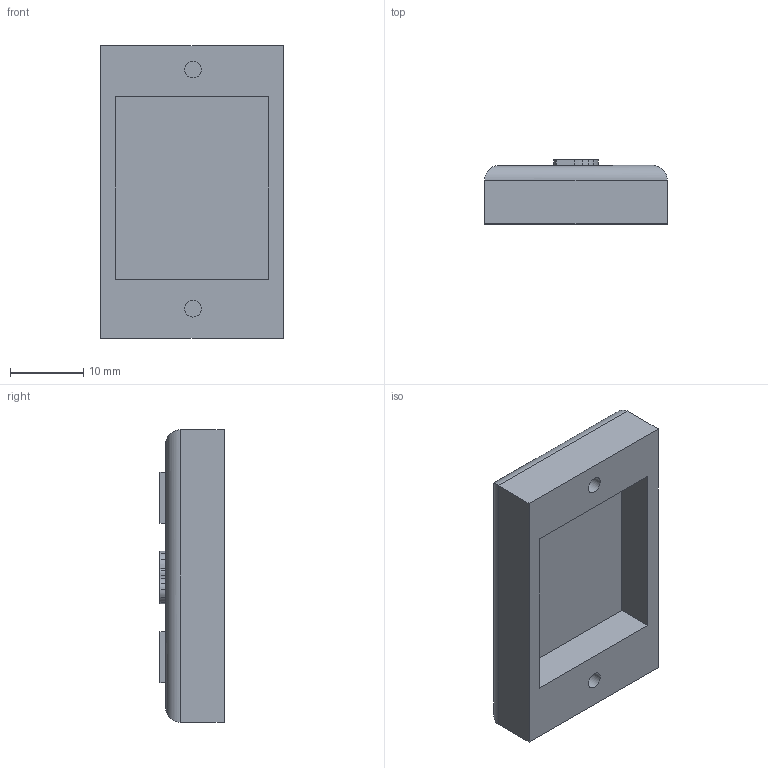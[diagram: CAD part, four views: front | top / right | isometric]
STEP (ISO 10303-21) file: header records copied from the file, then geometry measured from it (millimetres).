
FILE_DESCRIPTION(/* description */ (''),/* implementation_level */ '2;1');
FILE_NAME(/* name */ 'D:/Customers/2022/ESD Bluetooth/Fusion 360/ESD_Badge_v1 v1.step',/* time_stamp */ '2022-07-06T19:57:04-04:00',/* author */ (''),/* organization */ (''),/* preprocessor_version */ 'ST-DEVELOPER v18.1',/* originating_system */ 'Autodesk Translation Framework v10.13.0.1454',/* authorisation */ '');
FILE_SCHEMA (('AUTOMOTIVE_DESIGN { 1 0 10303 214 3 1 1 }'));
Length unit declared in the file: millimetre
Products named in the file (1): ESD_Badge_v1
Bounding box: 25 x 8.8 x 40 mm (x, y, z)
Volume: 5274.6 mm3; surface area: 3538.5 mm2
Topology: 1 solids, 1 shells, 92 faces, 245 edges, 162 vertices
Faces by surface type: bspline 49, plane 37, cylinder 6
Full cylindrical faces by diameter (mm): 2.271 x2
Entity records: 3328 total; most frequent: CARTESIAN_POINT 1333, ORIENTED_EDGE 490, EDGE_CURVE 245, DIRECTION 243, VERTEX_POINT 162, LINE 139, VECTOR 139, EDGE_LOOP 99
